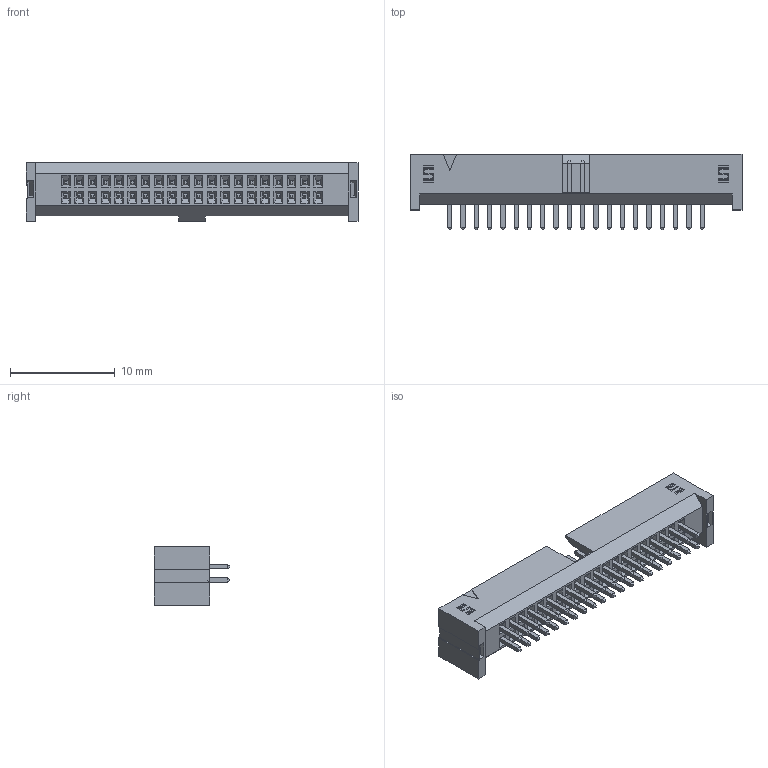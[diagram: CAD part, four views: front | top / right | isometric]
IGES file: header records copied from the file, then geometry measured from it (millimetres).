
Start section: SolidWorks IGES file using analytic representation for surfaces
Global section: file name: \\samtec.ad\customermodels\BasicModels\iges\SHF-120-01-X-D-TH.igs; native system: SolidWorks 2012; preprocessor: SolidWorks 2012; author: emmac; date: 130514.151122; units: inch
Bounding box: 31.75 x 7.24 x 5.59 mm (x, y, z)
Surface area: 1321.4 mm2 (no closed solid volume)
Topology: 0 solids, 0 shells, 791 faces, 4272 edges, 4272 vertices
Faces by surface type: bspline 791
